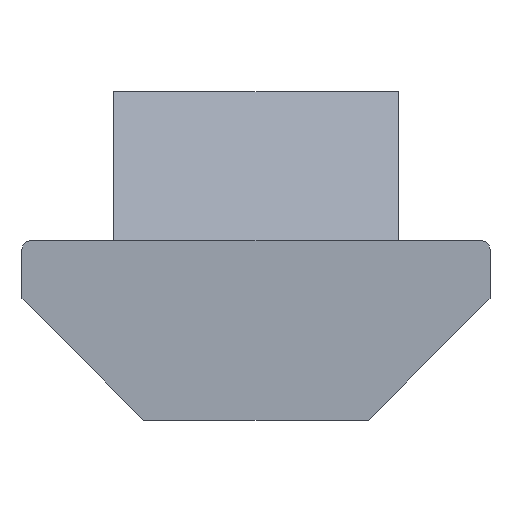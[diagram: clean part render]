
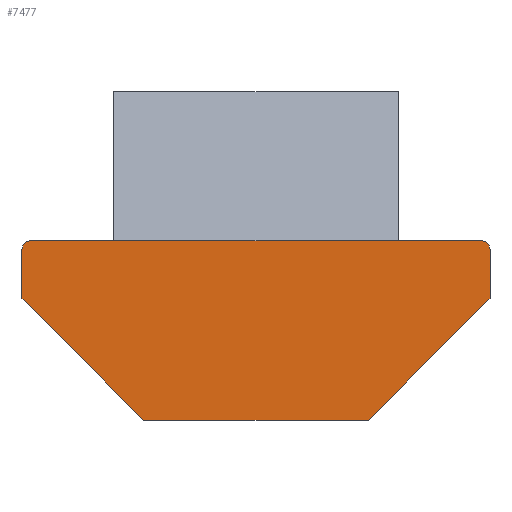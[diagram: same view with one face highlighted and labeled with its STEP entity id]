
A CAD part, front view. The second image highlights one B-rep face of the part: STEP entity #7477.
In plain terms, the highlighted planar face has unit normal (0, -1, 0).
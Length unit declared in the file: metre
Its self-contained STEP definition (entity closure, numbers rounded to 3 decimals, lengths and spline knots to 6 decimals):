
#16=CIRCLE('',#7908,0.0002);
#17=CIRCLE('',#7909,0.0002);
#1996=ORIENTED_EDGE('',*,*,#2354,.T.);
#1997=ORIENTED_EDGE('',*,*,#3010,.T.);
#1998=ORIENTED_EDGE('',*,*,#2340,.T.);
#1999=ORIENTED_EDGE('',*,*,#3009,.T.);
#2000=ORIENTED_EDGE('',*,*,#2348,.T.);
#2001=ORIENTED_EDGE('',*,*,#3011,.T.);
#2002=ORIENTED_EDGE('',*,*,#2355,.F.);
#2003=ORIENTED_EDGE('',*,*,#2021,.F.);
#2004=ORIENTED_EDGE('',*,*,#2015,.F.);
#2005=ORIENTED_EDGE('',*,*,#2018,.T.);
#2015=EDGE_CURVE('',#3012,#3014,#3677,.T.);
#2018=EDGE_CURVE('',#3012,#3016,#3680,.T.);
#2021=EDGE_CURVE('',#3014,#3018,#3683,.T.);
#2340=EDGE_CURVE('',#3336,#3337,#4002,.T.);
#2348=EDGE_CURVE('',#3345,#3344,#4010,.T.);
#2354=EDGE_CURVE('',#3016,#3349,#4016,.T.);
#2355=EDGE_CURVE('',#3018,#3350,#4017,.T.);
#3009=EDGE_CURVE('',#3337,#3345,#4669,.T.);
#3010=EDGE_CURVE('',#3349,#3336,#16,.T.);
#3011=EDGE_CURVE('',#3344,#3350,#17,.T.);
#3012=VERTEX_POINT('',#9749);
#3014=VERTEX_POINT('',#9752);
#3016=VERTEX_POINT('',#9758);
#3018=VERTEX_POINT('',#9764);
#3336=VERTEX_POINT('',#10402);
#3337=VERTEX_POINT('',#10403);
#3344=VERTEX_POINT('',#10417);
#3345=VERTEX_POINT('',#10419);
#3349=VERTEX_POINT('',#10429);
#3350=VERTEX_POINT('',#10433);
#3677=LINE('',#9751,#4671);
#3680=LINE('',#9757,#4674);
#3683=LINE('',#9763,#4677);
#4002=LINE('',#10401,#4996);
#4010=LINE('',#10418,#5004);
#4016=LINE('',#10430,#5010);
#4017=LINE('',#10432,#5011);
#4669=LINE('',#11818,#5663);
#4671=VECTOR('',#7917,1.);
#4674=VECTOR('',#7922,1.);
#4677=VECTOR('',#7927,1.);
#4996=VECTOR('',#8248,1.);
#5004=VECTOR('',#8256,1.);
#5010=VECTOR('',#8264,1.);
#5011=VECTOR('',#8267,1.);
#5663=VECTOR('',#9735,1.);
#6155=EDGE_LOOP('',(#1996,#1997,#1998,#1999,#2000,#2001,#2002,#2003,#2004,
#2005));
#6649=FACE_BOUND('',#6155,.T.);
#7064=PLANE('',#7907);
#7477=ADVANCED_FACE('',(#6649),#7064,.T.);
#7907=AXIS2_PLACEMENT_3D('',#11819,#9736,#9737);
#7908=AXIS2_PLACEMENT_3D('',#11820,#9738,#9739);
#7909=AXIS2_PLACEMENT_3D('',#11821,#9740,#9741);
#7917=DIRECTION('',(-1.,0.,0.));
#7922=DIRECTION('',(0.707,0.,0.707));
#7927=DIRECTION('',(-0.707,0.,0.707));
#8248=DIRECTION('',(-1.,0.,0.));
#8256=DIRECTION('',(-1.,0.,0.));
#8264=DIRECTION('',(0.,0.,1.));
#8267=DIRECTION('',(0.,0.,1.));
#9735=DIRECTION('',(-1.,0.,0.));
#9736=DIRECTION('',(0.,-1.,0.));
#9737=DIRECTION('',(1.,0.,0.));
#9738=DIRECTION('',(0.,-1.,0.));
#9739=DIRECTION('',(0.,0.,-1.));
#9740=DIRECTION('',(0.,-1.,0.));
#9741=DIRECTION('',(0.,0.,-1.));
#9749=CARTESIAN_POINT('',(0.00264,-0.178665,0.));
#9751=CARTESIAN_POINT('',(0.,-0.178665,0.));
#9752=CARTESIAN_POINT('',(-0.00264,-0.178665,0.));
#9757=CARTESIAN_POINT('',(0.00407,-0.178665,0.00143));
#9758=CARTESIAN_POINT('',(0.0055,-0.178665,0.00286));
#9763=CARTESIAN_POINT('',(-0.00407,-0.178665,0.00143));
#9764=CARTESIAN_POINT('',(-0.0055,-0.178665,0.00286));
#10401=CARTESIAN_POINT('',(0.,-0.178665,0.00422));
#10402=CARTESIAN_POINT('',(0.0053,-0.178665,0.00422));
#10403=CARTESIAN_POINT('',(0.00334,-0.178665,0.00422));
#10417=CARTESIAN_POINT('',(-0.0053,-0.178665,0.00422));
#10418=CARTESIAN_POINT('',(0.,-0.178665,0.00422));
#10419=CARTESIAN_POINT('',(-0.00334,-0.178665,0.00422));
#10429=CARTESIAN_POINT('',(0.0055,-0.178665,0.00402));
#10430=CARTESIAN_POINT('',(0.0055,-0.178665,0.00354));
#10432=CARTESIAN_POINT('',(-0.0055,-0.178665,0.00354));
#10433=CARTESIAN_POINT('',(-0.0055,-0.178665,0.00402));
#11818=CARTESIAN_POINT('',(0.00334,-0.178665,0.00422));
#11819=CARTESIAN_POINT('',(0.,-0.178665,0.00211));
#11820=CARTESIAN_POINT('',(0.0053,-0.178665,0.00402));
#11821=CARTESIAN_POINT('',(-0.0053,-0.178665,0.00402));
